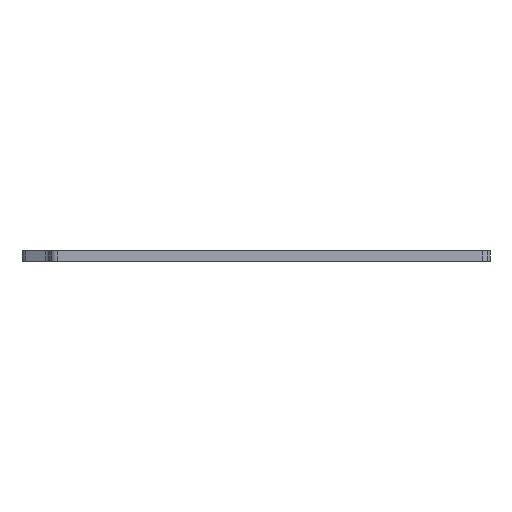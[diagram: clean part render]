
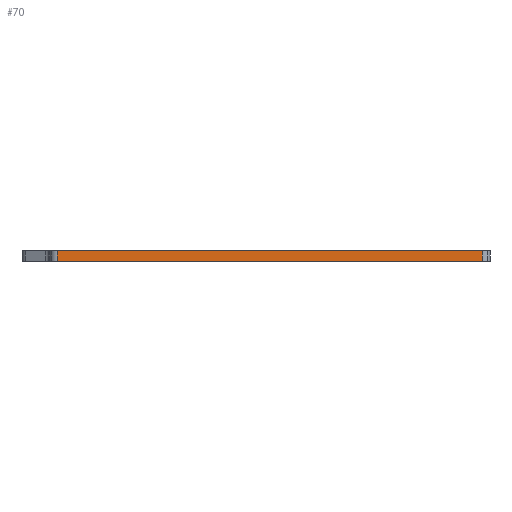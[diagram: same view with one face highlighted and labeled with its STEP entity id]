
A CAD part, front view. The second image highlights one B-rep face of the part: STEP entity #70.
In plain terms, the highlighted planar face has unit normal (0, -1, 0).
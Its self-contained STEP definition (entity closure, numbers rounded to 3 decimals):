
#70=ADVANCED_FACE('',(#141),#142,.T.);
#141=FACE_OUTER_BOUND('',#236,.T.);
#142=PLANE('',#237);
#236=EDGE_LOOP('',(#496,#497,#498,#499));
#237=AXIS2_PLACEMENT_3D('',#500,#501,#502);
#496=ORIENTED_EDGE('',*,*,#759,.F.);
#497=ORIENTED_EDGE('',*,*,#757,.T.);
#498=ORIENTED_EDGE('',*,*,#718,.F.);
#499=ORIENTED_EDGE('',*,*,#761,.T.);
#500=CARTESIAN_POINT('',(187.0,-70.0,0.));
#501=DIRECTION('',(0.,-1.0,-0.0));
#502=DIRECTION('',(0.0,0.0,-1.0));
#718=EDGE_CURVE('',#889,#891,#892,.T.);
#757=EDGE_CURVE('',#953,#891,#954,.T.);
#759=EDGE_CURVE('',#953,#956,#957,.T.);
#761=EDGE_CURVE('',#889,#956,#959,.T.);
#889=VERTEX_POINT('',#1122);
#891=VERTEX_POINT('',#1124);
#892=LINE('',#1125,#1126);
#953=VERTEX_POINT('',#1206);
#954=LINE('',#1207,#1208);
#956=VERTEX_POINT('',#1210);
#957=LINE('',#1211,#1212);
#959=LINE('',#1214,#1215);
#1122=CARTESIAN_POINT('',(14.,-70.0,0.));
#1124=CARTESIAN_POINT('',(14.,-70.0,4.));
#1125=CARTESIAN_POINT('',(14.,-70.0,0.));
#1126=VECTOR('',#1380,1.87);
#1206=CARTESIAN_POINT('',(184.0,-70.0,4.));
#1207=CARTESIAN_POINT('',(11.,-70.0,4.));
#1208=VECTOR('',#1457,1.0);
#1210=CARTESIAN_POINT('',(184.0,-70.0,0.));
#1211=CARTESIAN_POINT('',(184.0,-70.0,0.));
#1212=VECTOR('',#1461,1.87);
#1214=CARTESIAN_POINT('',(11.,-70.0,0.));
#1215=VECTOR('',#1465,1.0);
#1380=DIRECTION('',(0.0,0.0,1.0));
#1457=DIRECTION('',(-1.0,0.,0.0));
#1461=DIRECTION('',(-0.0,-0.0,-1.0));
#1465=DIRECTION('',(1.0,0.,0.0));
